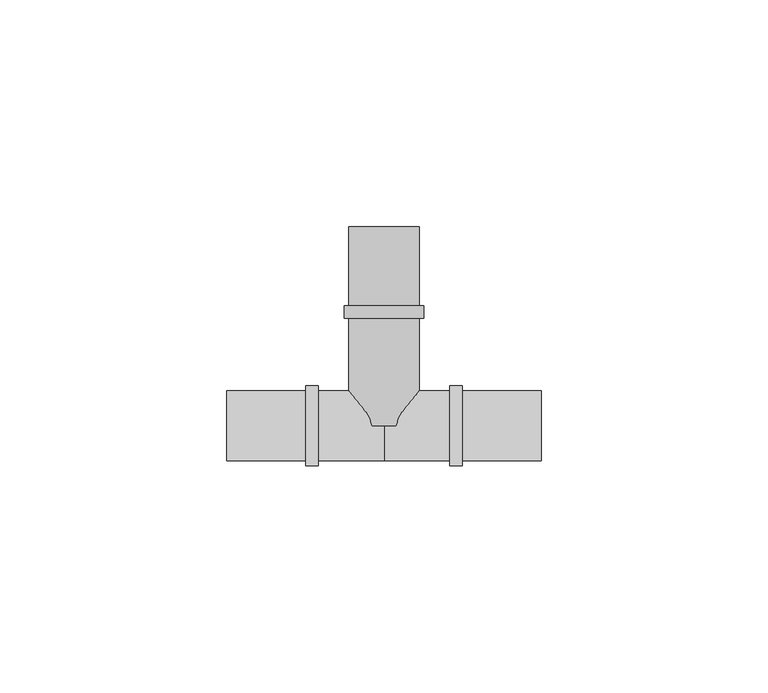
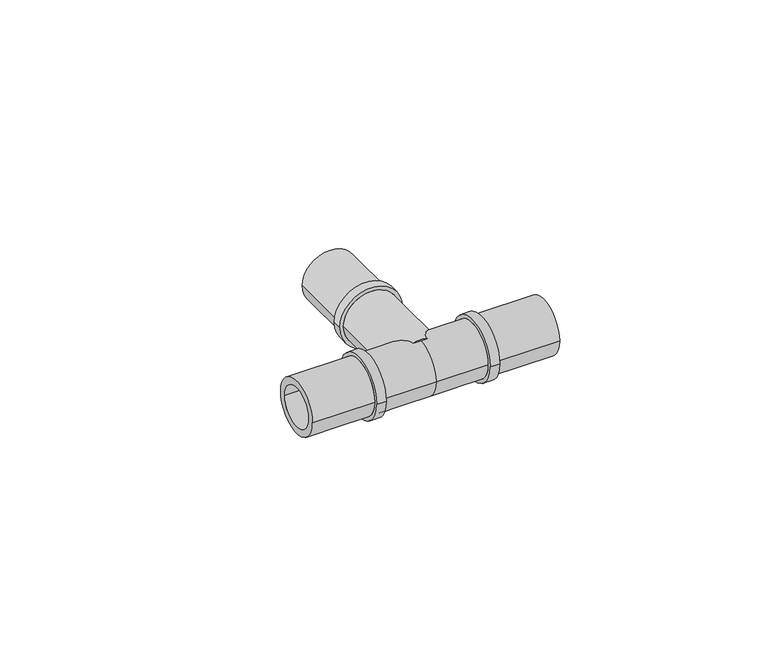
"""IFC4 building model written with IfcOpenShell, lengths in millimetres: pipe fitting geometry, FASTLOC_T-piece_LX : FSL T-Piece LX PL."""

from ifc_helpers import new_model, si_unit, frame, origin, place, context, project, spatial, polyline, circle_curve, source, transform, mapped, element, save
from ifc_brep_helpers import plane_surface, cylinder_surface, revolved_surface, advanced_brep


def pipe_fitting_b0737a23(model_context):
    return source(origin(), model_context, "Body", "AdvancedBrep", [
        advanced_brep(
        [(5.75, 43.8, 0.0), (-5.75, 43.8, 0.0), (-5.75, 0.0, 0.0), (5.75, 0.0, 0.0), (7.75, 0.0, 0.0), (-7.75, 0.0, 0.0), (-7.75, 23.73, 0.0), (7.75, 23.73, 0.0), (8.8, 23.73, 0.0), (-8.8, 23.73, 0.0), (-8.8, 26.4, 0.0), (8.8, 26.4, 0.0), (7.75, 26.4, 0.0), (-7.75, 26.4, 0.0), (-7.75, 43.8, 0.0), (7.75, 43.8, 0.0)],
        [
            (0, 1, circle_curve(frame((0.0, 43.8, 0.0), z_axis=(0.0, 1.0, 0.0), x_axis=(-1.0, 0.0, 0.0)), 5.75)),
            (1, 2),
            (2, 3, circle_curve(frame((0.0, 0.0, 0.0), z_axis=(0.0, -1.0, 0.0), x_axis=(-1.0, 0.0, 0.0)), 5.75)),
            (3, 0),
            (4, 5, circle_curve(frame((0.0, 0.0, 0.0), z_axis=(0.0, 1.0, 0.0), x_axis=(-1.0, 0.0, 0.0)), 7.75)),
            (5, 6),
            (6, 7, circle_curve(frame((0.0, 23.73, 0.0), z_axis=(0.0, -1.0, 0.0), x_axis=(-1.0, 0.0, 0.0)), 7.75)),
            (7, 4),
            (8, 9, circle_curve(frame((0.0, 23.73, 0.0), z_axis=(0.0, 1.0, 0.0), x_axis=(-1.0, 0.0, 0.0)), 8.8)),
            (9, 10),
            (10, 11, circle_curve(frame((0.0, 26.4, 0.0), z_axis=(0.0, -1.0, 0.0), x_axis=(-1.0, 0.0, 0.0)), 8.8)),
            (11, 8),
            (12, 13, circle_curve(frame((0.0, 26.4, 0.0), z_axis=(0.0, 1.0, 0.0), x_axis=(-1.0, 0.0, 0.0)), 7.75)),
            (13, 14),
            (14, 15, circle_curve(frame((0.0, 43.8, 0.0), z_axis=(0.0, -1.0, 0.0), x_axis=(-1.0, 0.0, 0.0)), 7.75)),
            (15, 12),
            (1, 0, circle_curve(frame((0.0, 43.8, 0.0), z_axis=(0.0, 1.0, 0.0), x_axis=(1.0, 0.0, 0.0)), 5.75)),
            (3, 2, circle_curve(frame((0.0, 0.0, 0.0), z_axis=(0.0, -1.0, 0.0), x_axis=(1.0, 0.0, 0.0)), 5.75)),
            (4, 5, circle_curve(frame((0.0, 0.0, 0.0), z_axis=(0.0, -1.0, 0.0), x_axis=(1.0, 0.0, 0.0)), 7.75)),
            (7, 6, circle_curve(frame((0.0, 23.73, 0.0), z_axis=(0.0, -1.0, 0.0), x_axis=(1.0, 0.0, 0.0)), 7.75)),
            (8, 9, circle_curve(frame((0.0, 23.73, 0.0), z_axis=(0.0, -1.0, 0.0), x_axis=(1.0, 0.0, 0.0)), 8.8)),
            (11, 10, circle_curve(frame((0.0, 26.4, 0.0), z_axis=(0.0, -1.0, 0.0), x_axis=(1.0, 0.0, 0.0)), 8.8)),
            (12, 13, circle_curve(frame((0.0, 26.4, 0.0), z_axis=(0.0, -1.0, 0.0), x_axis=(1.0, 0.0, 0.0)), 7.75)),
            (15, 14, circle_curve(frame((0.0, 43.8, 0.0), z_axis=(0.0, -1.0, 0.0), x_axis=(1.0, 0.0, 0.0)), 7.75)),
        ],
        [
            revolved_surface(polyline([(-5.75, 0.0, 0.0), (-5.75, 43.8, 0.0)]), (0.0, 0.0, 0.0), (0.0, -1.0, 0.0)),
            cylinder_surface(frame((0.0, 0.0, 0.0), z_axis=(0.0, -1.0, 0.0), x_axis=(-1.0, 0.0, 0.0)), 7.75),
            cylinder_surface(frame((0.0, 0.0, 0.0), z_axis=(0.0, -1.0, 0.0), x_axis=(-1.0, 0.0, 0.0)), 8.8),
            revolved_surface(polyline([(5.75, 0.0, 0.0), (5.75, 43.8, 0.0)]), (0.0, 0.0, 0.0), (0.0, -1.0, 0.0)),
            plane_surface(frame((0.0, 0.0, 0.0), z_axis=(0.0, -1.0, 0.0), x_axis=(1.0, 0.0, 0.0))),
            cylinder_surface(frame((0.0, 0.0, 0.0), z_axis=(0.0, -1.0, 0.0), x_axis=(1.0, 0.0, 0.0)), 7.75),
            plane_surface(frame((0.0, 23.73, 0.0), z_axis=(0.0, -1.0, 0.0), x_axis=(1.0, 0.0, 0.0))),
            cylinder_surface(frame((0.0, 0.0, 0.0), z_axis=(0.0, -1.0, 0.0), x_axis=(1.0, 0.0, 0.0)), 8.8),
            plane_surface(frame((0.0, 26.4, 0.0), z_axis=(0.0, 1.0, 0.0), x_axis=(1.0, 0.0, 0.0))),
            plane_surface(frame((0.0, 43.8, 0.0), z_axis=(0.0, 1.0, 0.0), x_axis=(1.0, 0.0, 0.0))),
        ],
        [
            (0, [[1, 2, 3, 4]]),
            (1, [[5, 6, 7, 8]]),
            (2, [[9, 10, 11, 12]]),
            (1, [[13, 14, 15, 16]]),
            (3, [[17, -4, 18, -2]]),
            (4, [[19, -5], [-18, -3]]),
            (5, [[-19, -8, 20, -6]]),
            (6, [[21, -9], [-20, -7]]),
            (7, [[-21, -12, 22, -10]]),
            (8, [[-22, -11], [23, -13]]),
            (5, [[-23, -16, 24, -14]]),
            (9, [[-24, -15], [-17, -1]]),
        ],
    ),
        advanced_brep(
        [(0.0, 7.75, 0.0), (0.0, -7.75, 0.0), (-14.53, -7.75, 0.0), (-14.53, 7.75, 0.0), (14.53, 7.75, 0.0), (14.53, -7.75, 0.0), (17.2, 8.8, 0.0), (17.2, -8.8, 0.0), (14.53, -8.8, 0.0), (14.53, 8.8, 0.0), (34.6, 7.75, 0.0), (34.6, -7.75, 0.0), (17.2, -7.75, 0.0), (17.2, 7.75, 0.0), (-17.2, 7.75, 0.0), (-17.2, -7.75, 0.0), (-34.6, -7.75, 0.0), (-34.6, 7.75, 0.0), (-14.53, 8.8, 0.0), (-14.53, -8.8, 0.0), (-17.2, -8.8, 0.0), (-17.2, 8.8, 0.0), (34.6, -5.75, 0.0), (34.6, 5.75, 0.0), (-34.6, 5.75, 0.0), (-34.6, -5.75, 0.0), (0.0, 5.75, 0.0), (0.0, -5.75, 0.0)],
        [
            (0, 1, circle_curve(frame((0.0, 0.0, 0.0), z_axis=(-1.0, 0.0, 0.0), x_axis=(0.0, -1.0, 0.0)), 7.75)),
            (1, 2),
            (2, 3, circle_curve(frame((-14.53, 0.0, 0.0), z_axis=(1.0, 0.0, 0.0), x_axis=(0.0, -1.0, 0.0)), 7.75)),
            (3, 0),
            (4, 5, circle_curve(frame((14.53, 0.0, 0.0), z_axis=(-1.0, 0.0, 0.0), x_axis=(0.0, -1.0, 0.0)), 7.75)),
            (5, 1),
            (0, 4),
            (6, 7, circle_curve(frame((17.2, 0.0, 0.0), z_axis=(-1.0, 0.0, 0.0), x_axis=(0.0, -1.0, 0.0)), 8.8)),
            (7, 8),
            (8, 9, circle_curve(frame((14.53, 0.0, 0.0), z_axis=(1.0, 0.0, 0.0), x_axis=(0.0, -1.0, 0.0)), 8.8)),
            (9, 6),
            (10, 11, circle_curve(frame((34.6, 0.0, 0.0), z_axis=(-1.0, 0.0, 0.0), x_axis=(0.0, -1.0, 0.0)), 7.75)),
            (11, 12),
            (12, 13, circle_curve(frame((17.2, 0.0, 0.0), z_axis=(1.0, 0.0, 0.0), x_axis=(0.0, -1.0, 0.0)), 7.75)),
            (13, 10),
            (14, 15, circle_curve(frame((-17.2, 0.0, 0.0), z_axis=(-1.0, 0.0, 0.0), x_axis=(0.0, -1.0, 0.0)), 7.75)),
            (15, 16),
            (16, 17, circle_curve(frame((-34.6, 0.0, 0.0), z_axis=(1.0, 0.0, 0.0), x_axis=(0.0, -1.0, 0.0)), 7.75)),
            (17, 14),
            (18, 19, circle_curve(frame((-14.53, 0.0, 0.0), z_axis=(-1.0, 0.0, 0.0), x_axis=(0.0, -1.0, 0.0)), 8.8)),
            (19, 20),
            (20, 21, circle_curve(frame((-17.2, 0.0, 0.0), z_axis=(1.0, 0.0, 0.0), x_axis=(0.0, -1.0, 0.0)), 8.8)),
            (21, 18),
            (18, 19, circle_curve(frame((-14.53, 0.0, 0.0), z_axis=(1.0, 0.0, 0.0), x_axis=(0.0, 1.0, 0.0)), 8.8)),
            (2, 3, circle_curve(frame((-14.53, 0.0, 0.0), z_axis=(-1.0, 0.0, 0.0), x_axis=(0.0, 1.0, 0.0)), 7.75)),
            (1, 0, circle_curve(frame((0.0, 0.0, 0.0), z_axis=(-1.0, 0.0, 0.0), x_axis=(0.0, 1.0, 0.0)), 7.75)),
            (5, 4, circle_curve(frame((14.53, 0.0, 0.0), z_axis=(-1.0, 0.0, 0.0), x_axis=(0.0, 1.0, 0.0)), 7.75)),
            (8, 9, circle_curve(frame((14.53, 0.0, 0.0), z_axis=(-1.0, 0.0, 0.0), x_axis=(0.0, 1.0, 0.0)), 8.8)),
            (7, 6, circle_curve(frame((17.2, 0.0, 0.0), z_axis=(-1.0, 0.0, 0.0), x_axis=(0.0, 1.0, 0.0)), 8.8)),
            (12, 13, circle_curve(frame((17.2, 0.0, 0.0), z_axis=(-1.0, 0.0, 0.0), x_axis=(0.0, 1.0, 0.0)), 7.75)),
            (11, 10, circle_curve(frame((34.6, 0.0, 0.0), z_axis=(-1.0, 0.0, 0.0), x_axis=(0.0, 1.0, 0.0)), 7.75)),
            (22, 23, circle_curve(frame((34.6, 0.0, 0.0), z_axis=(-1.0, 0.0, 0.0), x_axis=(0.0, 1.0, 0.0)), 5.75)),
            (23, 22, circle_curve(frame((34.6, 0.0, 0.0), z_axis=(-1.0, 0.0, 0.0), x_axis=(0.0, -1.0, 0.0)), 5.75)),
            (16, 17, circle_curve(frame((-34.6, 0.0, 0.0), z_axis=(-1.0, 0.0, 0.0), x_axis=(0.0, 1.0, 0.0)), 7.75)),
            (24, 25, circle_curve(frame((-34.6, 0.0, 0.0), z_axis=(1.0, 0.0, 0.0), x_axis=(0.0, 1.0, 0.0)), 5.75)),
            (25, 24, circle_curve(frame((-34.6, 0.0, 0.0), z_axis=(1.0, 0.0, 0.0), x_axis=(0.0, -1.0, 0.0)), 5.75)),
            (15, 14, circle_curve(frame((-17.2, 0.0, 0.0), z_axis=(-1.0, 0.0, 0.0), x_axis=(0.0, 1.0, 0.0)), 7.75)),
            (20, 21, circle_curve(frame((-17.2, 0.0, 0.0), z_axis=(-1.0, 0.0, 0.0), x_axis=(0.0, 1.0, 0.0)), 8.8)),
            (26, 27, circle_curve(frame((0.0, 0.0, 0.0), z_axis=(-1.0, 0.0, 0.0), x_axis=(0.0, -1.0, 0.0)), 5.75)),
            (27, 22),
            (23, 26),
            (25, 27),
            (26, 24),
            (27, 26, circle_curve(frame((0.0, 0.0, 0.0), z_axis=(-1.0, 0.0, 0.0), x_axis=(0.0, 1.0, 0.0)), 5.75)),
        ],
        [
            cylinder_surface(frame((0.0, 0.0, 0.0), z_axis=(1.0, 0.0, 0.0), x_axis=(0.0, -1.0, 0.0)), 7.75),
            cylinder_surface(frame((0.0, 0.0, 0.0), z_axis=(1.0, 0.0, 0.0), x_axis=(0.0, -1.0, 0.0)), 8.8),
            plane_surface(frame((-14.53, 0.0, 0.0), z_axis=(1.0, 0.0, 0.0), x_axis=(0.0, 1.0, 0.0))),
            cylinder_surface(frame((0.0, 0.0, 0.0), z_axis=(1.0, 0.0, 0.0), x_axis=(0.0, 1.0, 0.0)), 7.75),
            plane_surface(frame((14.53, 0.0, 0.0), z_axis=(-1.0, 0.0, 0.0), x_axis=(0.0, 1.0, 0.0))),
            cylinder_surface(frame((0.0, 0.0, 0.0), z_axis=(1.0, 0.0, 0.0), x_axis=(0.0, 1.0, 0.0)), 8.8),
            plane_surface(frame((17.2, 0.0, 0.0), z_axis=(1.0, 0.0, 0.0), x_axis=(0.0, 1.0, 0.0))),
            plane_surface(frame((34.6, 0.0, 0.0), z_axis=(1.0, 0.0, 0.0), x_axis=(0.0, 1.0, 0.0))),
            plane_surface(frame((-34.6, 0.0, 0.0), z_axis=(-1.0, 0.0, 0.0), x_axis=(0.0, 1.0, 0.0))),
            plane_surface(frame((-17.2, 0.0, 0.0), z_axis=(-1.0, 0.0, 0.0), x_axis=(0.0, 1.0, 0.0))),
            revolved_surface(polyline([(34.6, -5.75, 0.0), (0.0, -5.75, 0.0)]), (0.0, 0.0, 0.0), (1.0, 0.0, 0.0)),
            revolved_surface(polyline([(0.0, -5.75, 0.0), (-34.6, -5.75, 0.0)]), (0.0, 0.0, 0.0), (1.0, 0.0, 0.0)),
            revolved_surface(polyline([(34.6, 5.75, 0.0), (0.0, 5.75, 0.0)]), (0.0, 0.0, 0.0), (1.0, 0.0, 0.0)),
            revolved_surface(polyline([(0.0, 5.75, 0.0), (-34.6, 5.75, 0.0)]), (0.0, 0.0, 0.0), (1.0, 0.0, 0.0)),
        ],
        [
            (0, [[1, 2, 3, 4]]),
            (0, [[5, 6, -1, 7]]),
            (1, [[8, 9, 10, 11]]),
            (0, [[12, 13, 14, 15]]),
            (0, [[16, 17, 18, 19]]),
            (1, [[20, 21, 22, 23]]),
            (2, [[24, -20], [25, -3]]),
            (3, [[26, -4, -25, -2]]),
            (3, [[27, -7, -26, -6]]),
            (4, [[28, -10], [-27, -5]]),
            (5, [[29, -11, -28, -9]]),
            (6, [[-29, -8], [30, -14]]),
            (3, [[31, -15, -30, -13]]),
            (7, [[-31, -12], [32, 33]]),
            (8, [[34, -18], [35, 36]]),
            (3, [[37, -19, -34, -17]]),
            (9, [[38, -22], [-37, -16]]),
            (5, [[-24, -23, -38, -21]]),
            (10, [[39, 40, -33, 41]]),
            (11, [[-36, 42, -39, 43]]),
            (12, [[44, -41, -32, -40]]),
            (13, [[-35, -43, -44, -42]]),
        ],
    ),
    ])


if __name__ == "__main__":
    model = new_model("IFC4")
    model_context = context("Model", 3, world=origin())
    ifc_project = project(units=[si_unit("LENGTHUNIT", "METRE", prefix="MILLI")], contexts=[model_context])
    site = spatial("IfcSite", under=ifc_project)
    building = spatial("IfcBuilding", under=site)
    placement = place(None, origin())
    pipe_fitting_shape = pipe_fitting_b0737a23(model_context)
    element("IfcPipeFitting", 1, ObjectType="FASTLOC_T-piece_LX : FSL T-Piece LX PL", at=placement, inside=building, context=model_context, shape_type="MappedRepresentation", body=[
        mapped(pipe_fitting_shape, transform((0.0, 0.0, 0.0), x_axis=(1.0, 0.0, 0.0), y_axis=(0.0, 1.0, 0.0), z_axis=(0.0, 0.0, 1.0))),
    ])
    save(model, "model.ifc")
